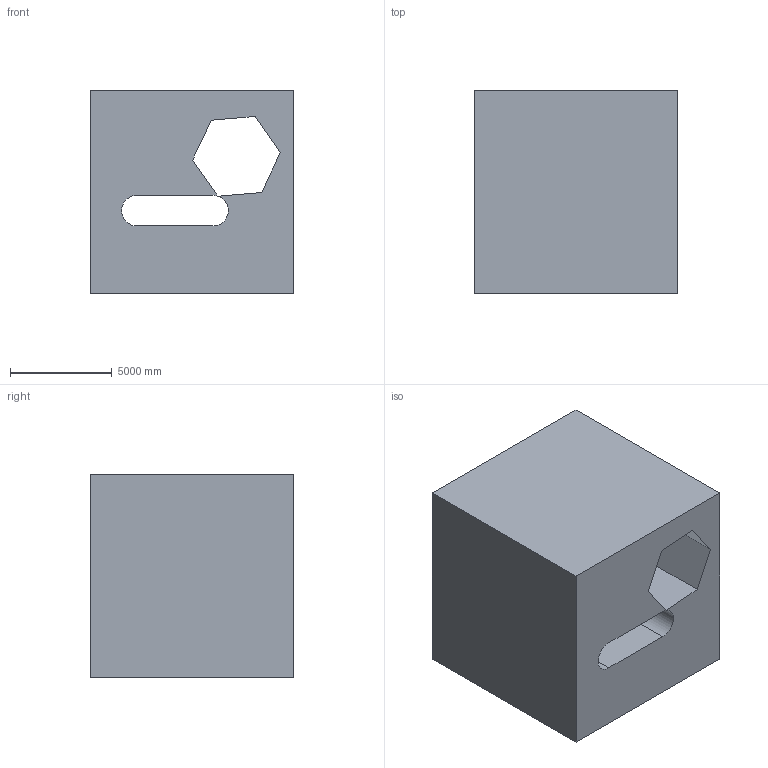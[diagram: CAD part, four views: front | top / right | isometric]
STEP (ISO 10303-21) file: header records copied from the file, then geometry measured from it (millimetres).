
FILE_DESCRIPTION (( 'STEP AP203' ), '1' );
FILE_NAME ('1177.STEP', '2022-08-18T13:03:47', ( 'user' ), ( '' ), 'SwSTEP 2.0', 'SolidWorks 2021', '' );
FILE_SCHEMA (( 'CONFIG_CONTROL_DESIGN' ));
Length unit declared in the file: centimetre
Products named in the file (1): 1177
Bounding box: 10000 x 10000 x 10000 mm (x, y, z)
Volume: 803802242350.7 mm3; surface area: 812454575.3 mm2
Topology: 1 solids, 1 shells, 17 faces, 45 edges, 30 vertices
Faces by surface type: plane 14, cylinder 3
Entity records: 606 total; most frequent: CARTESIAN_POINT 93, ORIENTED_EDGE 90, DIRECTION 87, EDGE_CURVE 45, LINE 39, VECTOR 39, VERTEX_POINT 30, AXIS2_PLACEMENT_3D 24
